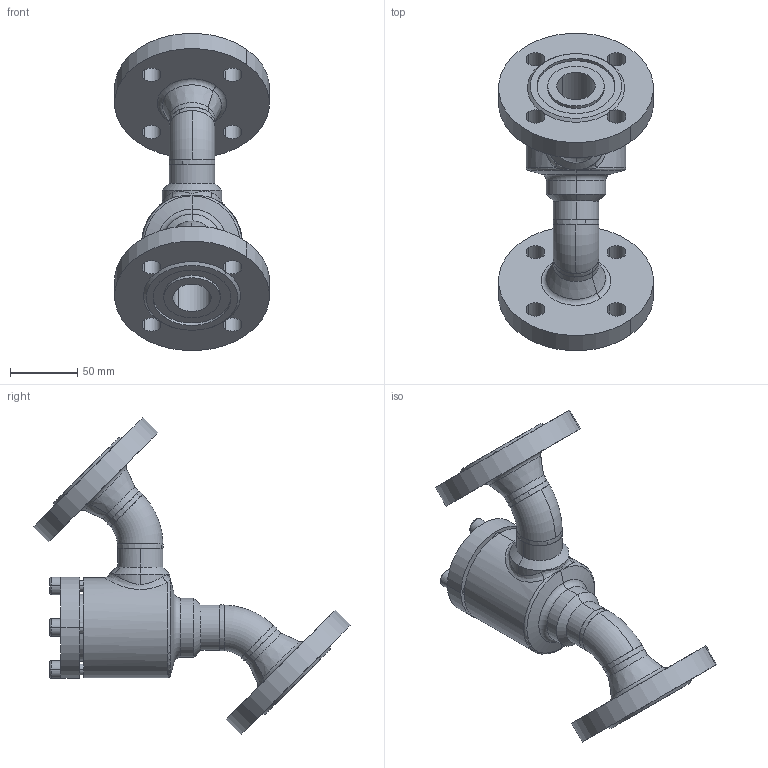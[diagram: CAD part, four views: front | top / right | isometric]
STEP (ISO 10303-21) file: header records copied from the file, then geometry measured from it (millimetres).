
FILE_DESCRIPTION (( 'STEP AP214' ), '1' );
FILE_NAME ('RV28320D12-DN025_DIN-FL-N_PS40.STEP', '2006-04-28T05:17:37', ( 'Herr Grams' ), ( 'AWP GmbH' ), 'SwSTEP 2.0', 'SolidWorks 2002296', '' );
FILE_SCHEMA (( 'AUTOMOTIVE_DESIGN' ));
Length unit declared in the file: millimetre
Products named in the file (13): Gehäuse16400-DN025_Standard; Rohrbogen 45°_R1-Fase_Rohrbogen-DN025-45°; bead16300-Geh-025-2_Standard; bead16300-Geh-025-1_Standard; bead16320-DN025-2_Standard; bead16320-DN025-1_Standard; RV28300E13_Deck+Schr-DN25-32_Standard; Zylinderschraube-DIN912_M 8x 25; Deckel28300E13-DN25-32_Standard; RV28320D12-DN025_DIN-FL-N_PS40; Gehäuse-kpl16320-DN025_DIN_PS40_Standard; Flansch-DIN2635-Nut_PS40_DIN-Flansch-DN025_PS40-Nut; Gehäuse-kpl16300-DN025_R1_Standard
Assembly tree (17 placements, depth 4):
  RV28320D12-DN025_DIN-FL-N_PS40
    Gehäuse-kpl16320-DN025_DIN_PS40_Standard
      Flansch-DIN2635-Nut_PS40_DIN-Flansch-DN025_PS40-Nut  x2
      Gehäuse-kpl16300-DN025_R1_Standard
        Gehäuse16400-DN025_Standard
        Rohrbogen 45°_R1-Fase_Rohrbogen-DN025-45°  x2
        bead16300-Geh-025-1_Standard
        bead16300-Geh-025-2_Standard
      bead16320-DN025-1_Standard
      bead16320-DN025-2_Standard
    RV28300E13_Deck+Schr-DN25-32_Standard
      Deckel28300E13-DN25-32_Standard
      Zylinderschraube-DIN912_M 8x 25  x4
Bounding box: 114.56 x 235.16 x 235.16 mm (x, y, z)
Volume: 626437.5 mm3; surface area: 151058.1 mm2
Topology: 14 solids, 14 shells, 255 faces, 602 edges, 380 vertices
Faces by surface type: cylinder 87, plane 68, cone 57, torus 24, bspline 19
Entity records: 47345 total; most frequent: CARTESIAN_POINT 42969, ORIENTED_EDGE 768, DIRECTION 767, EDGE_CURVE 384, AXIS2_PLACEMENT_3D 326, VERTEX_POINT 242, EDGE_LOOP 190, CIRCLE 163
